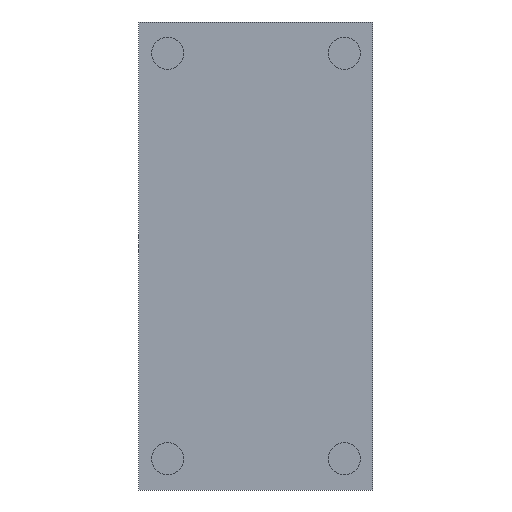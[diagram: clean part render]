
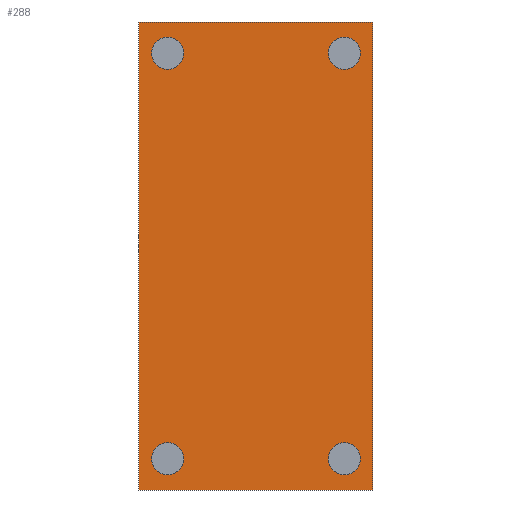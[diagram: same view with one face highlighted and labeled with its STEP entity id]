
A CAD part, front view. The second image highlights one B-rep face of the part: STEP entity #288.
In plain terms, the highlighted planar face has unit normal (0, -1, 0).
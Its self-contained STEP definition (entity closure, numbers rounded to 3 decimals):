
#1=CARTESIAN_POINT('',(17.,0.,39.));
#2=DIRECTION('',(0.,1.,0.));
#3=DIRECTION('',(-1.,0.,0.));
#4=AXIS2_PLACEMENT_3D('',#1,#2,#3);
#6=CARTESIAN_POINT('',(17.,0.,39.));
#7=DIRECTION('',(0.,1.,0.));
#8=DIRECTION('',(1.,0.,0.));
#9=AXIS2_PLACEMENT_3D('',#6,#7,#8);
#11=CARTESIAN_POINT('',(-17.,0.,39.));
#12=DIRECTION('',(0.,-1.,0.));
#13=DIRECTION('',(1.,0.,0.));
#14=AXIS2_PLACEMENT_3D('',#11,#12,#13);
#16=CARTESIAN_POINT('',(-17.,0.,39.));
#17=DIRECTION('',(0.,-1.,0.));
#18=DIRECTION('',(-1.,0.,0.));
#19=AXIS2_PLACEMENT_3D('',#16,#17,#18);
#21=CARTESIAN_POINT('',(-17.,0.,-39.));
#22=DIRECTION('',(0.,1.,0.));
#23=DIRECTION('',(1.,0.,0.));
#24=AXIS2_PLACEMENT_3D('',#21,#22,#23);
#26=CARTESIAN_POINT('',(-17.,0.,-39.));
#27=DIRECTION('',(0.,1.,0.));
#28=DIRECTION('',(-1.,0.,0.));
#29=AXIS2_PLACEMENT_3D('',#26,#27,#28);
#31=CARTESIAN_POINT('',(17.,0.,-39.));
#32=DIRECTION('',(0.,-1.,0.));
#33=DIRECTION('',(-1.,0.,0.));
#34=AXIS2_PLACEMENT_3D('',#31,#32,#33);
#36=CARTESIAN_POINT('',(17.,0.,-39.));
#37=DIRECTION('',(0.,-1.,0.));
#38=DIRECTION('',(1.,0.,0.));
#39=AXIS2_PLACEMENT_3D('',#36,#37,#38);
#131=CARTESIAN_POINT('',(-22.5,0.,45.));
#133=DIRECTION('',(0.,0.,-1.));
#134=VECTOR('',#133,90.);
#135=CARTESIAN_POINT('',(-22.5,0.,45.));
#136=LINE('',#135,#134);
#151=CARTESIAN_POINT('',(-22.5,0.,-45.));
#153=DIRECTION('',(0.,0.,1.));
#154=VECTOR('',#153,90.);
#155=CARTESIAN_POINT('',(22.5,0.,-45.));
#156=LINE('',#155,#154);
#171=CARTESIAN_POINT('',(22.5,0.,45.));
#191=CARTESIAN_POINT('',(22.5,0.,-45.));
#197=DIRECTION('',(1.,0.,0.));
#198=VECTOR('',#197,45.);
#199=CARTESIAN_POINT('',(-22.5,0.,45.));
#200=LINE('',#199,#198);
#205=DIRECTION('',(1.,0.,0.));
#206=VECTOR('',#205,45.);
#207=CARTESIAN_POINT('',(-22.5,0.,-45.));
#208=LINE('',#207,#206);
#210=VERTEX_POINT('',#191);
#215=CARTESIAN_POINT('',(13.9,0.,-39.));
#216=CARTESIAN_POINT('',(20.1,0.,-39.));
#217=VERTEX_POINT('',#215);
#218=VERTEX_POINT('',#216);
#220=VERTEX_POINT('',#151);
#225=CARTESIAN_POINT('',(-13.9,0.,-39.));
#226=CARTESIAN_POINT('',(-20.1,0.,-39.));
#227=VERTEX_POINT('',#225);
#228=VERTEX_POINT('',#226);
#230=VERTEX_POINT('',#171);
#235=CARTESIAN_POINT('',(13.9,0.,39.));
#236=CARTESIAN_POINT('',(20.1,0.,39.));
#237=VERTEX_POINT('',#235);
#238=VERTEX_POINT('',#236);
#240=VERTEX_POINT('',#131);
#245=CARTESIAN_POINT('',(-13.9,0.,39.));
#246=CARTESIAN_POINT('',(-20.1,0.,39.));
#247=VERTEX_POINT('',#245);
#248=VERTEX_POINT('',#246);
#249=CARTESIAN_POINT('',(0.,0.,0.));
#250=DIRECTION('',(0.,1.,0.));
#251=DIRECTION('',(1.,0.,0.));
#252=AXIS2_PLACEMENT_3D('',#249,#250,#251);
#253=PLANE('',#252);
#255=ORIENTED_EDGE('',*,*,#254,.F.);
#257=ORIENTED_EDGE('',*,*,#256,.T.);
#259=ORIENTED_EDGE('',*,*,#258,.F.);
#261=ORIENTED_EDGE('',*,*,#260,.F.);
#262=EDGE_LOOP('',(#255,#257,#259,#261));
#263=FACE_OUTER_BOUND('',#262,.F.);
#265=ORIENTED_EDGE('',*,*,#264,.F.);
#267=ORIENTED_EDGE('',*,*,#266,.F.);
#268=EDGE_LOOP('',(#265,#267));
#269=FACE_BOUND('',#268,.F.);
#271=ORIENTED_EDGE('',*,*,#270,.T.);
#273=ORIENTED_EDGE('',*,*,#272,.T.);
#274=EDGE_LOOP('',(#271,#273));
#275=FACE_BOUND('',#274,.F.);
#277=ORIENTED_EDGE('',*,*,#276,.F.);
#279=ORIENTED_EDGE('',*,*,#278,.F.);
#280=EDGE_LOOP('',(#277,#279));
#281=FACE_BOUND('',#280,.F.);
#283=ORIENTED_EDGE('',*,*,#282,.T.);
#285=ORIENTED_EDGE('',*,*,#284,.T.);
#286=EDGE_LOOP('',(#283,#285));
#287=FACE_BOUND('',#286,.F.);
#288=ADVANCED_FACE('',(#263,#269,#275,#281,#287),#253,.F.);
#5=CIRCLE('',#4,3.1);
#10=CIRCLE('',#9,3.1);
#15=CIRCLE('',#14,3.1);
#20=CIRCLE('',#19,3.1);
#25=CIRCLE('',#24,3.1);
#30=CIRCLE('',#29,3.1);
#35=CIRCLE('',#34,3.1);
#40=CIRCLE('',#39,3.1);
#254=EDGE_CURVE('',#240,#220,#136,.T.);
#256=EDGE_CURVE('',#240,#230,#200,.T.);
#258=EDGE_CURVE('',#210,#230,#156,.T.);
#260=EDGE_CURVE('',#220,#210,#208,.T.);
#264=EDGE_CURVE('',#237,#238,#5,.T.);
#266=EDGE_CURVE('',#238,#237,#10,.T.);
#270=EDGE_CURVE('',#247,#248,#15,.T.);
#272=EDGE_CURVE('',#248,#247,#20,.T.);
#276=EDGE_CURVE('',#227,#228,#25,.T.);
#278=EDGE_CURVE('',#228,#227,#30,.T.);
#282=EDGE_CURVE('',#217,#218,#35,.T.);
#284=EDGE_CURVE('',#218,#217,#40,.T.);
